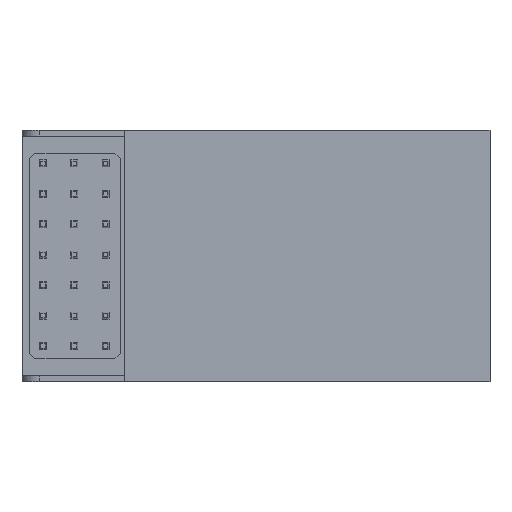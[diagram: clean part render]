
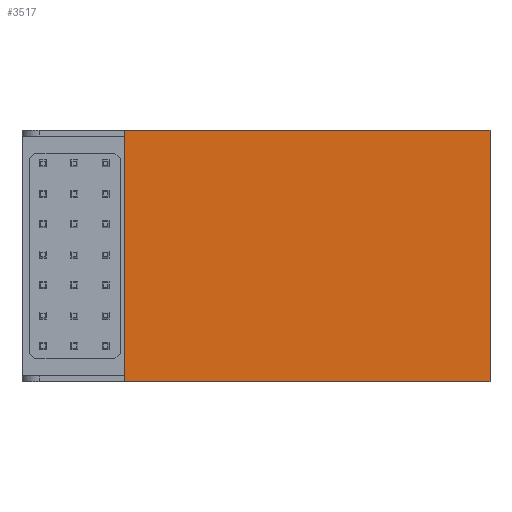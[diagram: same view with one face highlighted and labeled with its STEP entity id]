
A CAD part, top view. The second image highlights one B-rep face of the part: STEP entity #3517.
In plain terms, the highlighted planar face has unit normal (0, 0, 1).
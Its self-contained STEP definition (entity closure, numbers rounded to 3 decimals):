
#81=PLANE('',#3797);
#318=FACE_OUTER_BOUND('',#558,.T.);
#558=EDGE_LOOP('',(#2640,#2641,#2642,#2643));
#818=LINE('',#5098,#1296);
#821=LINE('',#5104,#1299);
#824=LINE('',#5109,#1302);
#827=LINE('',#5114,#1305);
#1296=VECTOR('',#4117,10.);
#1299=VECTOR('',#4122,10.);
#1302=VECTOR('',#4127,10.);
#1305=VECTOR('',#4134,10.);
#1773=VERTEX_POINT('',#5095);
#1774=VERTEX_POINT('',#5097);
#1775=VERTEX_POINT('',#5101);
#1776=VERTEX_POINT('',#5103);
#2086=EDGE_CURVE('',#1774,#1773,#818,.T.);
#2089=EDGE_CURVE('',#1776,#1775,#821,.T.);
#2092=EDGE_CURVE('',#1775,#1774,#824,.T.);
#2095=EDGE_CURVE('',#1773,#1776,#827,.T.);
#2640=ORIENTED_EDGE('',*,*,#2092,.T.);
#2641=ORIENTED_EDGE('',*,*,#2086,.T.);
#2642=ORIENTED_EDGE('',*,*,#2095,.T.);
#2643=ORIENTED_EDGE('',*,*,#2089,.T.);
#3517=ADVANCED_FACE('',(#318),#81,.T.);
#3797=AXIS2_PLACEMENT_3D('',#5115,#4135,#4136);
#4117=DIRECTION('',(1.,0.,0.));
#4122=DIRECTION('',(-1.,0.,0.));
#4127=DIRECTION('',(0.,-1.,0.));
#4134=DIRECTION('',(0.,1.,0.));
#4135=DIRECTION('center_axis',(0.,0.,1.));
#4136=DIRECTION('ref_axis',(1.,0.,0.));
#5095=CARTESIAN_POINT('',(41.,0.,9.));
#5097=CARTESIAN_POINT('',(9.,0.,9.));
#5098=CARTESIAN_POINT('',(0.,0.,9.));
#5101=CARTESIAN_POINT('',(9.,22.,9.));
#5103=CARTESIAN_POINT('',(41.,22.,9.));
#5104=CARTESIAN_POINT('',(41.,22.,9.));
#5109=CARTESIAN_POINT('',(9.,16.25,9.));
#5114=CARTESIAN_POINT('',(41.,0.,9.));
#5115=CARTESIAN_POINT('Origin',(20.5,11.,9.));
